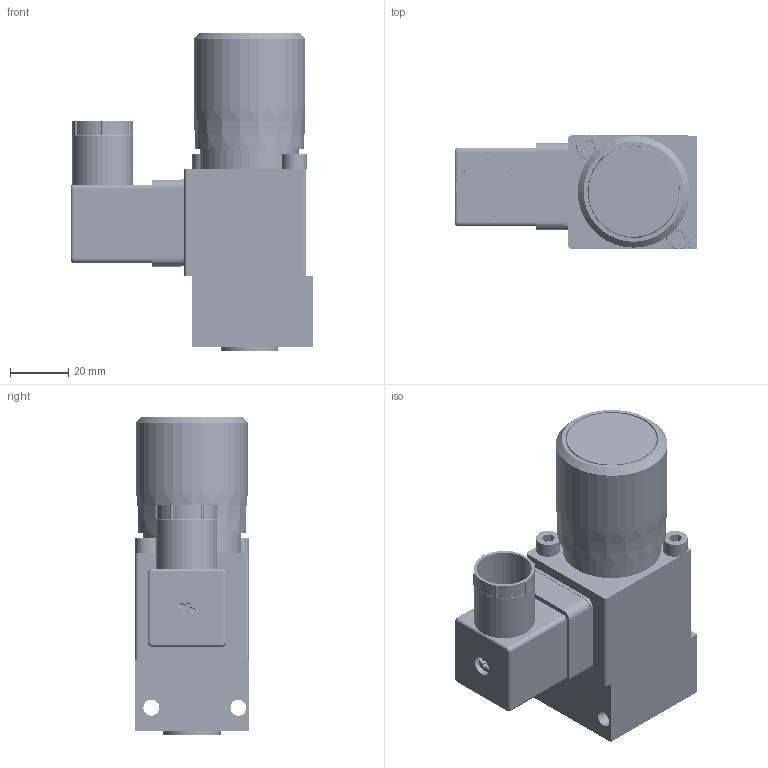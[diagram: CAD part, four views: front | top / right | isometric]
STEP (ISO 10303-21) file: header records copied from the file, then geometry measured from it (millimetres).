
FILE_DESCRIPTION(/* description */ (''),/* implementation_level */ '2;1');
FILE_NAME(/* name */ 'HED8-OA压力继电器.prt.stp',/* time_stamp */ '2022-03-30T19:54:09+08:00',/* author */ (''),/* organization */ (''),/* preprocessor_version */ 'ST-DEVELOPER v16.7',/* originating_system */ 'SIEMENS PLM Software NX 12.0',/* authorisation */ '');
FILE_SCHEMA (('AUTOMOTIVE_DESIGN { 1 0 10303 214 3 1 1 1 }'));
Products named in the file (1): HED8-OA压力继电器
Bounding box: 83.7 x 39.49 x 109.8 mm (x, y, z)
Volume: 170268.3 mm3; surface area: 59933.6 mm2
Topology: 20 solids, 23 shells, 703 faces, 1890 edges, 1247 vertices
Faces by surface type: cylinder 394, plane 258, bspline 37, torus 9, sphere 3, cone 2
Full cylindrical faces by diameter (mm): 1.8 x6, 2.5 x42, 3 x96, 3.5 x6, 4.2 x28, 5 x59, 5.424 x1, 5.5 x4, 6 x1, 6.5 x3, 7 x2, 8.5 x2, 12.5 x7, 14.3 x1, 17.5 x2, 19 x1, 19.7 x1, 21 x1, 25 x1, 31 x1, 31.5 x1, 32 x1, 34 x1, 36 x1, 38.5 x1
Entity records: 75026 total; most frequent: CARTESIAN_POINT 63924, DIRECTION 2180, ORIENTED_EDGE 2170, EDGE_CURVE 1085, AXIS2_PLACEMENT_3D 781, VERTEX_POINT 747, LINE 618, VECTOR 618
